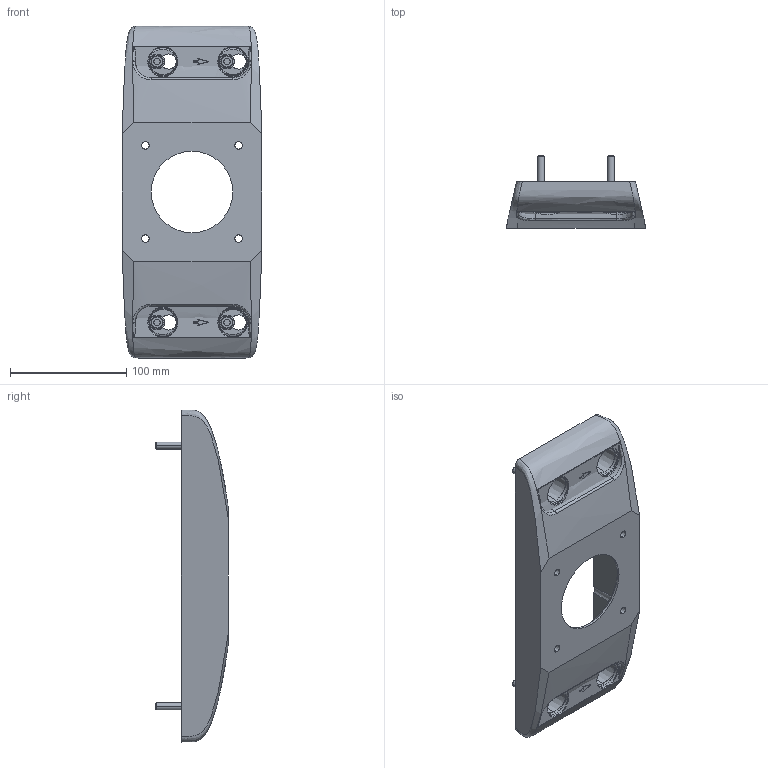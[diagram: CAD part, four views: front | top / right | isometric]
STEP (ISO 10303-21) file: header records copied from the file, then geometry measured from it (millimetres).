
FILE_DESCRIPTION((''),'2;1');
FILE_NAME('1016898000_ASM','2024-09-11T10:46:03',('Stephanie.Hoppe'),(''),'CREO PARAMETRIC BY PTC INC, 2022124','CREO PARAMETRIC BY PTC INC, 2022124','');
FILE_SCHEMA(('AUTOMOTIVE_DESIGN { 1 0 10303 214 1 1 1 1 }'));
Length unit declared in the file: millimetre
Products named in the file (6): 9324232000_AF0; 9620457000_ASM; DICHTUNG_9640528000; 9640528000_ASM; 9261382000; 1016898000_ASM
Assembly tree (8 placements, depth 4):
  1016898000_ASM
    9640528000_ASM
      9620457000_ASM
        9324232000_AF0
      DICHTUNG_9640528000
    9261382000  x4
Bounding box: 120 x 62 x 285 mm (x, y, z)
Volume: 418454.4 mm3; surface area: 148798.5 mm2
Topology: 6 solids, 18 shells, 1385 faces, 3427 edges, 2126 vertices
Faces by surface type: plane 806, cylinder 264, bspline 119, cone 104, torus 80, sphere 8, extrusion 4
Entity records: 46796 total; most frequent: CARTESIAN_POINT 14226, ORIENTED_EDGE 3872, DIRECTION 3857, PRESENTATION_STYLE_ASSIGNMENT 2709, STYLED_ITEM 2709, CURVE_STYLE 2137, EDGE_CURVE 1962, AXIS2_PLACEMENT_3D 1447
